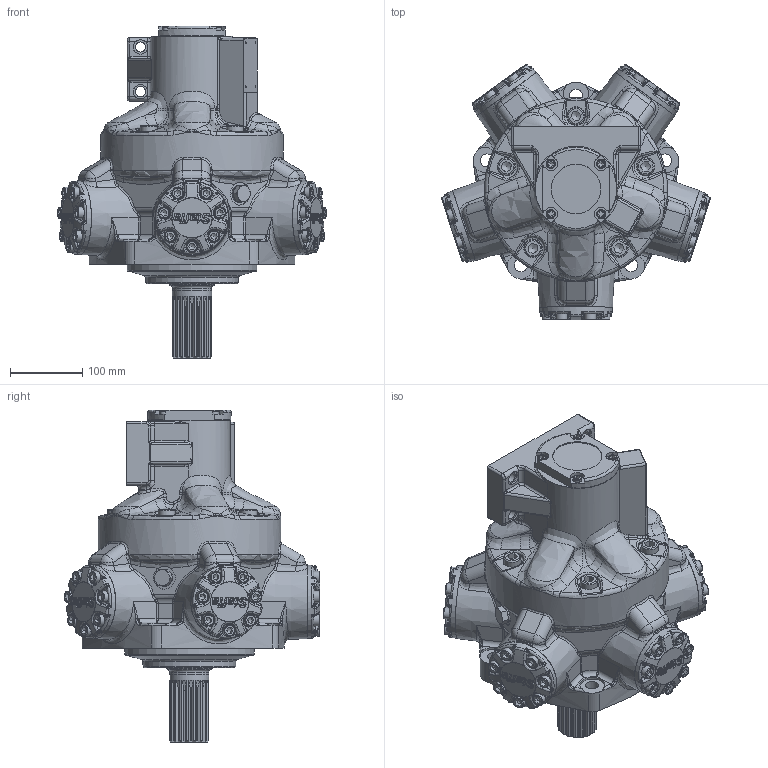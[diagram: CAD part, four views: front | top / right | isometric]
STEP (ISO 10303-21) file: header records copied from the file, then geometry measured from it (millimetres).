
FILE_DESCRIPTION(/* description */ (''),/* implementation_level */ '2;1');
FILE_NAME(/* name */ 'HMB030_Z_SM3_50.stp',/* time_stamp */ '2025-12-16T14:11:49Z',/* author */ ('ccallanga'),/* organization */ (''),/* preprocessor_version */ 'ST-DEVELOPER v20',/* originating_system */ 'Autodesk Inventor 2024',/* authorisation */ '');
FILE_SCHEMA (('AUTOMOTIVE_DESIGN { 1 0 10303 214 3 1 1 }'));
Products named in the file (1): HMB030 Web Assembly_Simplify_1
Bounding box: 373.48 x 355.32 x 460.99 mm (x, y, z)
Volume: 15224697.5 mm3; surface area: 550334 mm2
Topology: 1 solids, 1 shells, 4339 faces, 10492 edges, 6171 vertices
Faces by surface type: bspline 1822, plane 1010, cylinder 893, torus 339, cone 158, sphere 117
Full cylindrical faces by diameter (mm): 2.2 x4, 6.5 x1, 7 x1, 8.376 x2, 9.4 x1, 11.328 x1, 11.913 x4, 12 x1, 12.7 x4, 13.614 x1, 14 x4, 16 x40, 16.5 x35, 17 x5, 17.78 x1, 18 x5, 20 x4, 23.8 x2, 23.825 x5, 25.4 x5, 31.75 x3, 32 x2, 54.369 x1, 63.474 x1, 67.564 x1, 68.58 x1, 179.934 x1, 228.613 x1, 254 x1
Entity records: 196917 total; most frequent: CARTESIAN_POINT 104630, ORIENTED_EDGE 20646, DIRECTION 14374, EDGE_CURVE 10323, VERTEX_POINT 6171, AXIS2_PLACEMENT_3D 5688, EDGE_LOOP 4542, STYLED_ITEM 4340
